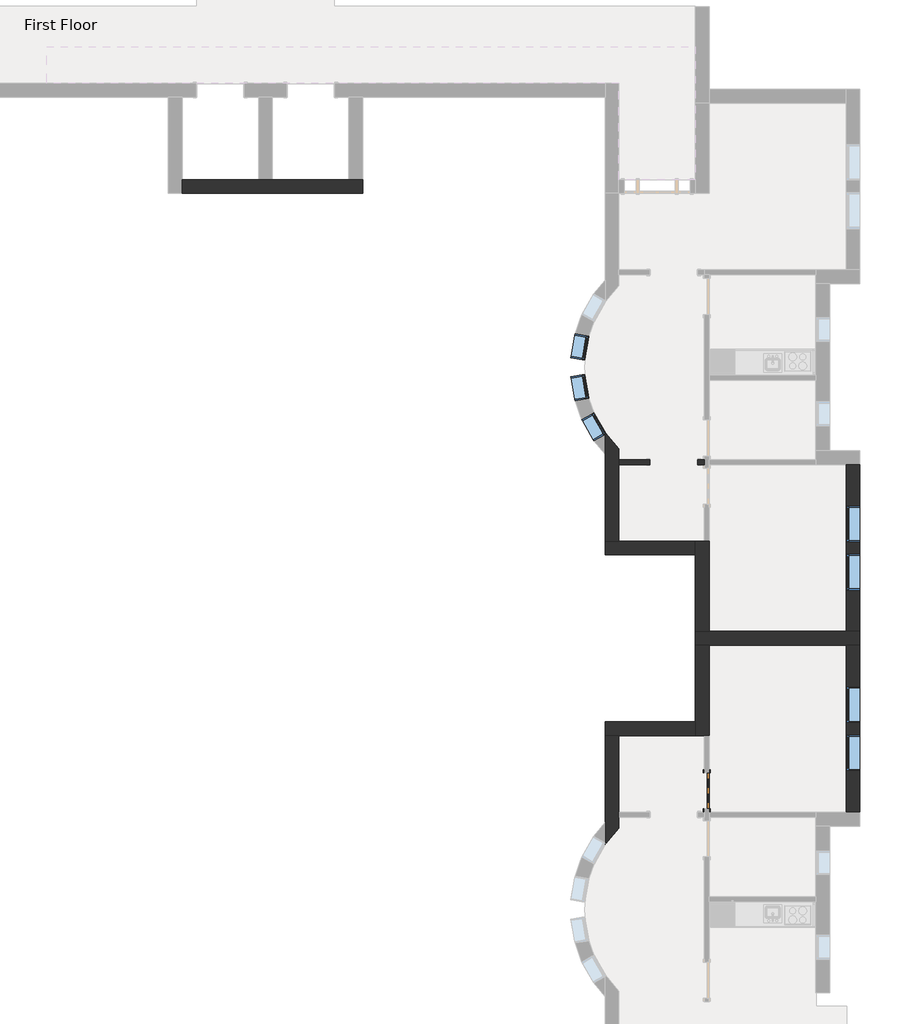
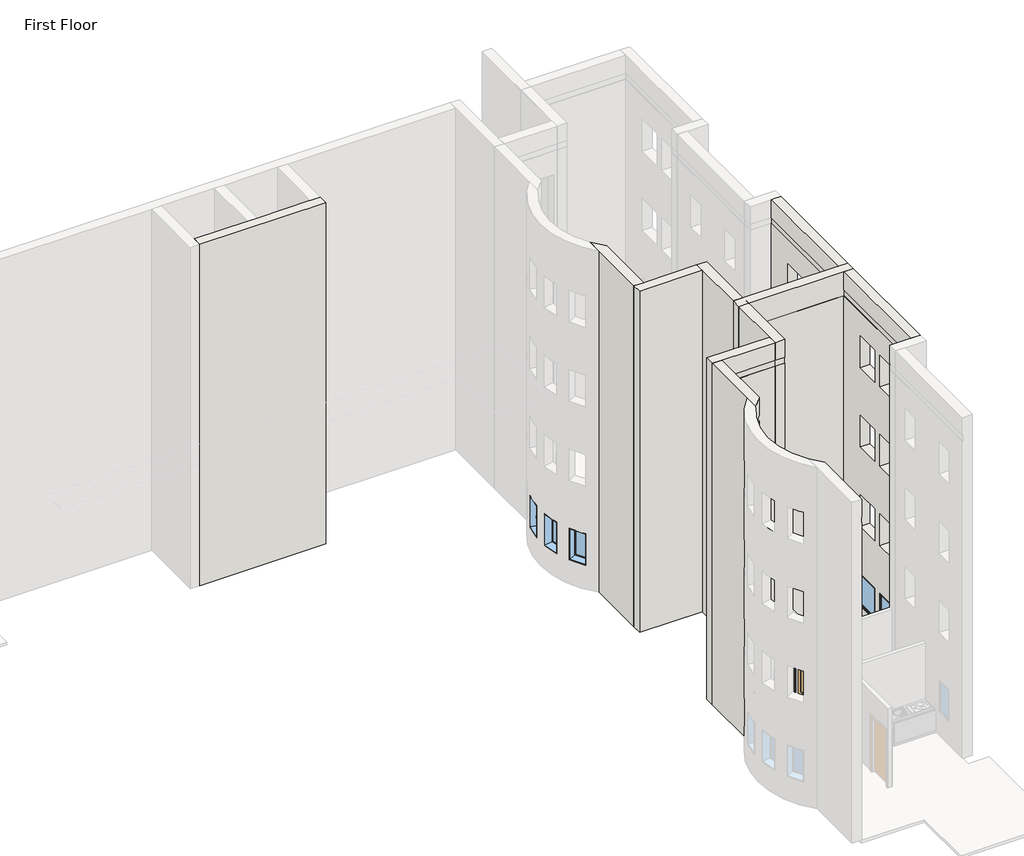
# One storey, part 11 of 23: 12 walls, 7 windows, 1 door.
"""IFC4 building model written with IfcOpenShell, lengths in millimetres."""

from ifc_helpers import new_model, si_unit, frame, origin, place, context, project, spatial, polyline, circle_curve, outline, extrude, faceted_brep, transform, mapped, element, save
from ifc_brep_helpers import plane_surface, revolved_surface, advanced_brep
from components import door_2e3b4da2, window_60baf983, window_ed80354a, window_15c49d37, window_0e2fc6ce

model = new_model("IFC4")

# Units and contexts
model_context = context("Model", 3, world=origin())
ifc_project = project(units=[si_unit("LENGTHUNIT", "METRE", prefix="MILLI")], contexts=[model_context])

# Site, building, storey
site = spatial("IfcSite", under=ifc_project)
building = spatial("IfcBuilding", under=site)
storey = spatial("IfcBuildingStorey", under=building, Name="First Floor", Elevation=0.0)

# Door
placement = place(None, origin())
door_shape = door_2e3b4da2(model_context)
element("IfcDoor", 1, ObjectType="Single-Decorative 2 : 36\" x 84\"", at=placement, inside=storey, context=model_context, shape_type="MappedRepresentation", body=[
    mapped(door_shape, transform((-3900.4589563, -15653.8558133, 0.0), x_axis=(0.0, -1.0, 0.0), y_axis=(1.0, 0.0, 0.0), z_axis=(0.0, 0.0, 1.0))),
])

# Walls
element("IfcWall", 2, ObjectType="Exterior - Brick on Mtl. Stud", at=placement, inside=storey, context=model_context, shape_type="Brep", body=[
    faceted_brep([(-17171.9589563, -550.3808133, 0.0), (-12599.9589563, -550.3808133, 0.0), (-12599.9589563, -550.3808133, 13106.4), (-17171.9589563, -550.3808133, 13106.4), (-17171.9589563, -197.9558133, 0.0), (-17171.9589563, -197.9558133, 13106.4), (-15238.3839563, -197.9558133, 13106.4), (-14885.9589563, -197.9558133, 13106.4), (-12952.3839563, -197.9558133, 13106.4), (-12599.9589563, -197.9558133, 13106.4), (-12599.9589563, -197.9558133, 0.0), (-12952.3839563, -197.9558133, 0.0), (-14885.9589563, -197.9558133, 0.0), (-15238.3839563, -197.9558133, 0.0)], [[[0, 1, 2, 3]], [[4, 5, 6, 7, 8, 9, 10, 11, 12, 13]], [[1, 0, 4, 13, 12, 11, 10]], [[3, 2, 9, 8, 7, 6, 5]], [[2, 1, 10, 9]], [[0, 3, 5, 4]]]),
])
element("IfcWall", 3, ObjectType="Exterior - Brick on Mtl. Stud", at=placement, inside=storey, context=model_context, shape_type="Brep", body=[
    faceted_brep([(-26.9589563, -11627.9558133, 0.0), (-379.3839563, -11627.9558133, 0.0), (-3836.9589563, -11627.9558133, 0.0), (-4189.3839563, -11627.9558133, 0.0), (-4189.3839563, -11627.9558133, 13106.4), (-3836.9589563, -11627.9558133, 13106.4), (-379.3839563, -11627.9558133, 13106.4), (-26.9589563, -11627.9558133, 13106.4), (-3849.6589563, -11627.9558133, 12192.0), (-3836.9589563, -11627.9558133, 12192.0), (-379.3839563, -11627.9558133, 12192.0), (-366.6839563, -11627.9558133, 12192.0), (-366.6839563, -11627.9558133, 12420.6), (-379.3839563, -11627.9558133, 12420.6), (-3836.9589563, -11627.9558133, 12420.6), (-3849.6589563, -11627.9558133, 12420.6), (-4189.3839563, -11980.3808133, 0.0), (-3836.9589563, -11980.3808133, 0.0), (-379.3839563, -11980.3808133, 0.0), (-26.9589563, -11980.3808133, 0.0), (-26.9589563, -11980.3808133, 13106.4), (-379.3839563, -11980.3808133, 13106.4), (-3836.9589563, -11980.3808133, 13106.4), (-4189.3839563, -11980.3808133, 13106.4), (-3849.6589563, -11640.6558133, 12192.0), (-366.6839563, -11640.6558133, 12192.0), (-366.6839563, -11640.6558133, 12420.6), (-3849.6589563, -11640.6558133, 12420.6)], [[[0, 1, 2, 3, 4, 5, 6, 7], [8, 9, 10, 11, 12, 13, 14, 15]], [[16, 17, 18, 19, 20, 21, 22, 23]], [[3, 2, 1, 0, 19, 18, 17, 16]], [[7, 6, 5, 4, 23, 22, 21, 20]], [[4, 3, 16, 23]], [[0, 7, 20, 19]], [[24, 25, 11, 10, 9, 8]], [[26, 27, 15, 14, 13, 12]], [[25, 24, 27, 26]], [[25, 26, 12, 11]], [[27, 24, 8, 15]]]),
])
element("IfcWall", 4, ObjectType="Exterior - Brick on Mtl. Stud", at=placement, inside=storey, context=model_context, shape_type="Brep", body=[
    faceted_brep([(-3836.9589563, -11627.9558133, 0.0), (-3836.9589563, -9341.9558133, 0.0), (-3836.9589563, -9341.9558133, 3048.0), (-3836.9589563, -9341.9558133, 6096.0), (-3836.9589563, -9341.9558133, 9144.0), (-3836.9589563, -9341.9558133, 12192.0), (-3836.9589563, -11627.9558133, 12192.0), (-3836.9589563, -9341.9558133, 13106.4), (-3836.9589563, -11627.9558133, 13106.4), (-3836.9589563, -11627.9558133, 12420.6), (-3836.9589563, -9341.9558133, 12420.6), (-4189.3839563, -9341.9558133, 0.0), (-4189.3839563, -9694.3808133, 0.0), (-4189.3839563, -11627.9558133, 0.0), (-4189.3839563, -11627.9558133, 13106.4), (-4189.3839563, -9694.3808133, 13106.4), (-4189.3839563, -9341.9558133, 13106.4), (-4189.3839563, -9341.9558133, 12420.6), (-4189.3839563, -9354.6558133, 12420.6), (-4189.3839563, -9354.6558133, 12192.0), (-4189.3839563, -9341.9558133, 12192.0), (-3963.9589563, -9341.9558133, 0.0), (-3963.9589563, -9341.9558133, 12192.0), (-3849.6589563, -11627.9558133, 12192.0), (-3849.6589563, -11627.9558133, 12420.6), (-3849.6589563, -9354.6558133, 12192.0), (-3849.6589563, -9354.6558133, 12420.6)], [[[0, 1, 2, 3, 4, 5, 6]], [[7, 8, 9, 10]], [[11, 12, 13, 14, 15, 16, 17, 18, 19, 20]], [[1, 0, 13, 12, 11, 21]], [[8, 7, 16, 15, 14]], [[1, 21, 11, 20, 22, 5, 4, 3, 2]], [[16, 7, 10, 17]], [[8, 14, 13, 0, 6, 23, 24, 9]], [[19, 25, 23, 6, 5, 22, 20]], [[24, 26, 18, 17, 10, 9]], [[26, 25, 19, 18]], [[25, 26, 24, 23]]]),
])
element("IfcWall", 5, ObjectType="Exterior - Brick on Mtl. Stud", at=placement, inside=storey, context=model_context, shape_type="Brep", body=[
    faceted_brep([(-4189.3839563, -9341.9558133, 0.0), (-6122.9589563, -9341.9558133, 0.0), (-6475.3839563, -9341.9558133, 0.0), (-6475.3839563, -9341.9558133, 13106.4), (-6122.9589563, -9341.9558133, 13106.4), (-4189.3839563, -9341.9558133, 13106.4), (-4189.3839563, -9341.9558133, 12420.6), (-6122.9589563, -9341.9558133, 12420.6), (-6135.6589563, -9341.9558133, 12420.6), (-6135.6589563, -9341.9558133, 12192.0), (-6122.9589563, -9341.9558133, 12192.0), (-4189.3839563, -9341.9558133, 12192.0), (-6475.3839563, -9694.3808133, 0.0), (-4189.3839563, -9694.3808133, 0.0), (-4189.3839563, -9694.3808133, 13106.4), (-6475.3839563, -9694.3808133, 13106.4), (-4189.3839563, -9354.6558133, 12192.0), (-4189.3839563, -9354.6558133, 12420.6), (-6135.6589563, -9354.6558133, 12192.0), (-6135.6589563, -9354.6558133, 12420.6)], [[[0, 1, 2, 3, 4, 5, 6, 7, 8, 9, 10, 11]], [[12, 13, 14, 15]], [[2, 1, 0, 13, 12]], [[5, 4, 3, 15, 14]], [[3, 2, 12, 15]], [[5, 14, 13, 0, 11, 16, 17, 6]], [[9, 18, 16, 11, 10]], [[17, 19, 8, 7, 6]], [[19, 18, 9, 8]], [[18, 19, 17, 16]]]),
])
element("IfcWall", 6, ObjectType="Exterior - Brick on Mtl. Stud", at=placement, inside=storey, context=model_context, shape_type="AdvancedBrep", body=[
    advanced_brep(
    [(-6122.9589563, -9341.9558133, 0.0), (-6122.9589563, -7408.3808133, 0.0), (-6122.9589563, -7281.3808133, 0.0), (-6122.9589563, -7006.552661, 0.0), (-6122.9589563, -7006.552661, 12192.0), (-6122.9589563, -7281.3808133, 12192.0), (-6122.9589563, -7408.3808133, 12192.0), (-6122.9589563, -9341.9558133, 12192.0), (-6122.9589563, -7006.552661, 13106.4), (-6122.9589563, -9341.9558133, 13106.4), (-6122.9589563, -9341.9558133, 12420.6), (-6122.9589563, -7006.552661, 12420.6), (-6475.3839563, -6592.6589631, 0.0), (-6475.3839563, -7150.5535473, 0.0), (-6475.3839563, -9341.9558133, 0.0), (-6475.3839563, -9341.9558133, 13106.4), (-6475.3839563, -7150.5535473, 13106.4), (-6475.3839563, -6592.6589631, 13106.4), (-6475.3839563, -6592.6589631, 12420.6), (-6475.3839563, -6901.1458841, 12420.6), (-6475.3839563, -6901.1458841, 12192.0), (-6475.3839563, -6592.6589631, 12192.0), (-6475.3839563, -6592.6589631, 11277.6), (-6475.3839563, -6641.947211, 11277.6), (-6475.3839563, -6641.947211, 10058.4), (-6475.3839563, -6592.6589631, 10058.4), (-6475.3839563, -6592.6589631, 8229.6), (-6475.3839563, -6641.947211, 8229.6), (-6475.3839563, -6641.947211, 7010.4), (-6475.3839563, -6592.6589631, 7010.4), (-6475.3839563, -6592.6589631, 5181.6), (-6475.3839563, -6641.947211, 5181.6), (-6475.3839563, -6641.947211, 3962.4), (-6475.3839563, -6592.6589631, 3962.4), (-6475.3839563, -6592.6589631, 2133.6), (-6475.3839563, -6641.947211, 2133.6), (-6475.3839563, -6641.947211, 914.4), (-6475.3839563, -6592.6589631, 914.4), (-6469.9143656, -6600.4477821, 914.4), (-6469.9143656, -6600.4477821, 2133.6), (-6469.9143656, -6600.4477821, 3962.4), (-6469.9143656, -6600.4477821, 5181.6), (-6469.9143656, -6600.4477821, 7010.4), (-6469.9143656, -6600.4477821, 8229.6), (-6469.9143656, -6600.4477821, 10058.4), (-6469.9143656, -6600.4477821, 11277.6), (-6135.6589563, -9341.9558133, 12192.0), (-6135.6589563, -9341.9558133, 12420.6), (-6453.3830671, -6629.3735215, 914.4), (-6453.3830671, -6629.3735215, 2133.6), (-6453.3830671, -6629.3735215, 10058.4), (-6453.3830671, -6629.3735215, 11277.6), (-6453.3830671, -6629.3735215, 3962.4), (-6453.3830671, -6629.3735215, 5181.6), (-6453.3830671, -6629.3735215, 7010.4), (-6453.3830671, -6629.3735215, 8229.6), (-6135.6589563, -7249.4736866, 12192.0), (-6135.6589563, -7249.4736866, 12420.6)],
    [
        (0, 1),
        (1, 2),
        (2, 3),
        (3, 4),
        (4, 5),
        (5, 6),
        (6, 7),
        (7, 0),
        (8, 9),
        (9, 10),
        (10, 11),
        (11, 8),
        (12, 13),
        (13, 14),
        (14, 15),
        (15, 16),
        (16, 17),
        (17, 18),
        (18, 19),
        (19, 20),
        (20, 21),
        (21, 22),
        (22, 23),
        (23, 24),
        (24, 25),
        (25, 26),
        (26, 27),
        (27, 28),
        (28, 29),
        (29, 30),
        (30, 31),
        (31, 32),
        (32, 33),
        (33, 34),
        (34, 35),
        (35, 36),
        (36, 37),
        (37, 12),
        (0, 14),
        (12, 3, circle_curve(frame((-4122.4640713, -4946.1683133, 0.0), z_axis=(0.0, 0.0, 1.0), x_axis=(0.0, 1.0, 0.0)), 2871.7875)),
        (8, 17, circle_curve(frame((-4122.4640713, -4946.1683133, 13106.4), z_axis=(0.0, 0.0, -1.0), x_axis=(0.0, 1.0, 0.0)), 2871.7875)),
        (15, 9),
        (37, 38, circle_curve(frame((-4122.4640713, -4946.1683133, 914.4), z_axis=(0.0, 0.0, 1.0), x_axis=(0.0, 1.0, 0.0)), 2871.7875)),
        (38, 39),
        (39, 34, circle_curve(frame((-4122.4640713, -4946.1683133, 2133.6), z_axis=(0.0, 0.0, -1.0), x_axis=(0.0, 1.0, 0.0)), 2871.7875)),
        (33, 40, circle_curve(frame((-4122.4640713, -4946.1683133, 3962.4), z_axis=(0.0, 0.0, 1.0), x_axis=(0.0, 1.0, 0.0)), 2871.7875)),
        (40, 41),
        (41, 30, circle_curve(frame((-4122.4640713, -4946.1683133, 5181.6), z_axis=(0.0, 0.0, -1.0), x_axis=(0.0, 1.0, 0.0)), 2871.7875)),
        (29, 42, circle_curve(frame((-4122.4640713, -4946.1683133, 7010.4), z_axis=(0.0, 0.0, 1.0), x_axis=(0.0, 1.0, 0.0)), 2871.7875)),
        (42, 43),
        (43, 26, circle_curve(frame((-4122.4640713, -4946.1683133, 8229.6), z_axis=(0.0, 0.0, -1.0), x_axis=(0.0, 1.0, 0.0)), 2871.7875)),
        (25, 44, circle_curve(frame((-4122.4640713, -4946.1683133, 10058.4), z_axis=(0.0, 0.0, 1.0), x_axis=(0.0, 1.0, 0.0)), 2871.7875)),
        (44, 45),
        (45, 22, circle_curve(frame((-4122.4640713, -4946.1683133, 11277.6), z_axis=(0.0, 0.0, -1.0), x_axis=(0.0, 1.0, 0.0)), 2871.7875)),
        (21, 4, circle_curve(frame((-4122.4640713, -4946.1683133, 12192.0), z_axis=(0.0, 0.0, 1.0), x_axis=(0.0, 1.0, 0.0)), 2871.7875)),
        (11, 18, circle_curve(frame((-4122.4640713, -4946.1683133, 12420.6), z_axis=(0.0, 0.0, -1.0), x_axis=(0.0, 1.0, 0.0)), 2871.7875)),
        (7, 46),
        (46, 47),
        (47, 10),
        (48, 49),
        (49, 39),
        (38, 48),
        (36, 48),
        (35, 49),
        (50, 51),
        (51, 45),
        (44, 50),
        (24, 50),
        (23, 51),
        (52, 53),
        (53, 41),
        (40, 52),
        (32, 52),
        (31, 53),
        (54, 55),
        (55, 43),
        (42, 54),
        (28, 54),
        (27, 55),
        (20, 56, circle_curve(frame((-4122.4640713, -4946.1683133, 12192.0), z_axis=(0.0, 0.0, 1.0), x_axis=(0.0, -1.0, 0.0)), 3059.1125)),
        (56, 46),
        (47, 57),
        (57, 19, circle_curve(frame((-4122.4640713, -4946.1683133, 12420.6), z_axis=(0.0, 0.0, -1.0), x_axis=(0.0, -1.0, 0.0)), 3059.1125)),
        (57, 56),
    ],
    [
        plane_surface(frame((-6122.9589563, -9518.1683133, 0.0), z_axis=(1.0, 0.0, 0.0), x_axis=(0.0, 1.0, 0.0))),
        plane_surface(frame((-6475.3839563, -9518.1683133, 0.0), z_axis=(-1.0, 0.0, 0.0), x_axis=(0.0, -1.0, 0.0))),
        plane_surface(frame((-6122.9589563, -9518.1683133, 0.0), z_axis=(0.0, 0.0, -1.0), x_axis=(-1.0, 0.0, 0.0))),
        plane_surface(frame((-6122.9589563, -7079.7683133, 13106.4), z_axis=(0.0, 0.0, 1.0), x_axis=(-1.0, 0.0, 0.0))),
        revolved_surface(polyline([(-4122.4640713, -2074.3808132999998, 0.0), (-4122.4640713, -2074.3808132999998, 12192.0)]), (-4122.4640713, -4946.1683133, 0.0), (0.0, 0.0, -1.0)),
        revolved_surface(polyline([(-4122.4640713, -2074.3808132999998, 12420.6), (-4122.4640713, -2074.3808132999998, 13106.4)]), (-4122.4640713, -4946.1683133, 0.0), (0.0, 0.0, -1.0)),
        plane_surface(frame((-4013.1714563, -9341.9558133, 0.0), z_axis=(0.0, -1.0, 0.0), x_axis=(-1.0, 0.0, 0.0))),
        plane_surface(frame((-6755.8611513, -6100.1106675, 2133.6), z_axis=(-0.8682133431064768, -0.4961910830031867, 0.0), x_axis=(0.0, 0.0, 1.0))),
        plane_surface(frame((-7060.4709271, -6274.1976656, 914.4), z_axis=(0.0, 0.0, 1.0), x_axis=(0.8682133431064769, 0.4961910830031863, 0.0))),
        plane_surface(frame((-6757.9928429, -6803.4605195, 914.4), z_axis=(-0.4961910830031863, 0.8682133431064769, 0.0), x_axis=(0.8682133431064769, 0.4961910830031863, 0.0))),
        plane_surface(frame((-6757.9928429, -6803.4605195, 2133.6), z_axis=(0.0, 0.0, -1.0), x_axis=(0.8682133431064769, 0.4961910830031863, 0.0))),
        plane_surface(frame((-6755.8611513, -6100.1106675, 11277.6), z_axis=(-0.8682133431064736, -0.4961910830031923, 0.0), x_axis=(0.0, 0.0, 1.0))),
        plane_surface(frame((-7060.4709271, -6274.1976656, 10058.4), z_axis=(0.0, 0.0, 1.0), x_axis=(0.8682133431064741, 0.49619108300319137, 0.0))),
        plane_surface(frame((-6757.9928429, -6803.4605195, 10058.4), z_axis=(-0.49619108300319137, 0.8682133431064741, 0.0), x_axis=(0.8682133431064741, 0.49619108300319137, 0.0))),
        plane_surface(frame((-6757.9928429, -6803.4605195, 11277.6), z_axis=(0.0, 0.0, -1.0), x_axis=(0.8682133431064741, 0.49619108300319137, 0.0))),
        plane_surface(frame((-6755.8611513, -6100.1106675, 5181.6), z_axis=(-0.8682133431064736, -0.4961910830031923, 0.0), x_axis=(0.0, 0.0, 1.0))),
        plane_surface(frame((-7060.4709271, -6274.1976656, 3962.4), z_axis=(0.0, 0.0, 1.0), x_axis=(0.8682133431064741, 0.49619108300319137, 0.0))),
        plane_surface(frame((-6757.9928429, -6803.4605195, 3962.4), z_axis=(-0.49619108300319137, 0.8682133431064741, 0.0), x_axis=(0.8682133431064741, 0.49619108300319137, 0.0))),
        plane_surface(frame((-6757.9928429, -6803.4605195, 5181.6), z_axis=(0.0, 0.0, -1.0), x_axis=(0.8682133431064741, 0.49619108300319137, 0.0))),
        plane_surface(frame((-6755.8611513, -6100.1106675, 8229.6), z_axis=(-0.8682133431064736, -0.4961910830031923, 0.0), x_axis=(0.0, 0.0, 1.0))),
        plane_surface(frame((-7060.4709271, -6274.1976656, 7010.4), z_axis=(0.0, 0.0, 1.0), x_axis=(0.8682133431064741, 0.49619108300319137, 0.0))),
        plane_surface(frame((-6757.9928429, -6803.4605195, 7010.4), z_axis=(-0.49619108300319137, 0.8682133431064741, 0.0), x_axis=(0.8682133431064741, 0.49619108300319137, 0.0))),
        plane_surface(frame((-6757.9928429, -6803.4605195, 8229.6), z_axis=(0.0, 0.0, -1.0), x_axis=(0.8682133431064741, 0.49619108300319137, 0.0))),
        plane_surface(frame((-366.6839563, -11640.6558133, 12192.0), z_axis=(0.0, 0.0, 1.0), x_axis=(1.0, 0.0, 0.0))),
        plane_surface(frame((-366.6839563, -11640.6558133, 12420.6), z_axis=(0.0, 0.0, -1.0), x_axis=(1.0, 0.0, 0.0))),
        revolved_surface(polyline([(-4122.4640713, -8005.2808133, 12420.6), (-4122.4640713, -8005.2808133, 12192.0)]), (-4122.4640713, -4946.1683133, 12192.0), (0.0, 0.0, 1.0)),
        plane_surface(frame((-6135.6589563, -7249.4736866, 12192.0), z_axis=(1.0, 0.0, 0.0), x_axis=(0.0, -1.0, 0.0))),
    ],
    [
        (0, [[1, 2, 3, 4, 5, 6, 7, 8]]),
        (0, [[9, 10, 11, 12]]),
        (1, [[13, 14, 15, 16, 17, 18, 19, 20, 21, 22, 23, 24, 25, 26, 27, 28, 29, 30, 31, 32, 33, 34, 35, 36, 37, 38]]),
        (2, [[-3, -2, -1, 39, -14, -13, 40]]),
        (3, [[-9, 41, -17, -16, 42]]),
        (4, [[-40, -38, 43, 44, 45, -34, 46, 47, 48, -30, 49, 50, 51, -26, 52, 53, 54, -22, 55, -4]]),
        (5, [[-41, -12, 56, -18]]),
        (6, [[-42, -15, -39, -8, 57, 58, 59, -10]]),
        (7, [[60, 61, -44, 62]]),
        (8, [[63, -62, -43, -37]]),
        (9, [[-60, -63, -36, 64]]),
        (10, [[-64, -35, -45, -61]]),
        (11, [[65, 66, -53, 67]]),
        (12, [[68, -67, -52, -25]]),
        (13, [[-65, -68, -24, 69]]),
        (14, [[-69, -23, -54, -66]]),
        (15, [[70, 71, -47, 72]]),
        (16, [[73, -72, -46, -33]]),
        (17, [[-70, -73, -32, 74]]),
        (18, [[-74, -31, -48, -71]]),
        (19, [[75, 76, -50, 77]]),
        (20, [[78, -77, -49, -29]]),
        (21, [[-75, -78, -28, 79]]),
        (22, [[-79, -27, -51, -76]]),
        (23, [[80, 81, -57, -7, -6, -5, -55, -21]]),
        (24, [[82, 83, -19, -56, -11, -59]]),
        (25, [[84, -80, -20, -83]]),
        (26, [[-84, -82, -58, -81]]),
    ],
),
])
element("IfcWall", 7, ObjectType="Exterior - Brick on Mtl. Stud", at=placement, inside=storey, context=model_context, shape_type="Brep", body=[
    faceted_brep([(-26.9589563, -11627.9558133, 0.0), (-26.9589563, -7408.3808133, 0.0), (-26.9589563, -7408.3808133, 13106.4), (-26.9589563, -11627.9558133, 13106.4), (-26.9589563, -9365.7683133, 7010.4), (-26.9589563, -9365.7683133, 8229.6), (-26.9589563, -8451.3683133, 8229.6), (-26.9589563, -8451.3683133, 7010.4), (-26.9589563, -10584.9683133, 7010.4), (-26.9589563, -10584.9683133, 8229.6), (-26.9589563, -9670.5683133, 8229.6), (-26.9589563, -9670.5683133, 7010.4), (-26.9589563, -9365.7683133, 3962.4), (-26.9589563, -9365.7683133, 5181.6), (-26.9589563, -8451.3683133, 5181.6), (-26.9589563, -8451.3683133, 3962.4), (-26.9589563, -10584.9683133, 3962.4), (-26.9589563, -10584.9683133, 5181.6), (-26.9589563, -9670.5683133, 5181.6), (-26.9589563, -9670.5683133, 3962.4), (-26.9589563, -9365.7683133, 10058.4), (-26.9589563, -9365.7683133, 11277.6), (-26.9589563, -8451.3683133, 11277.6), (-26.9589563, -8451.3683133, 10058.4), (-26.9589563, -10584.9683133, 10058.4), (-26.9589563, -10584.9683133, 11277.6), (-26.9589563, -9670.5683133, 11277.6), (-26.9589563, -9670.5683133, 10058.4), (-26.9589563, -9365.7683133, 914.4), (-26.9589563, -9365.7683133, 2133.6), (-26.9589563, -8451.3683133, 2133.6), (-26.9589563, -8451.3683133, 914.4), (-26.9589563, -10584.9683133, 914.4), (-26.9589563, -10584.9683133, 2133.6), (-26.9589563, -9670.5683133, 2133.6), (-26.9589563, -9670.5683133, 914.4), (-379.3839563, -7408.3808133, 0.0), (-379.3839563, -11627.9558133, 0.0), (-379.3839563, -11627.9558133, 12192.0), (-379.3839563, -7408.3808133, 12192.0), (-379.3839563, -9365.7683133, 8229.6), (-379.3839563, -9365.7683133, 7010.4), (-379.3839563, -8451.3683133, 7010.4), (-379.3839563, -8451.3683133, 8229.6), (-379.3839563, -10584.9683133, 8229.6), (-379.3839563, -10584.9683133, 7010.4), (-379.3839563, -9670.5683133, 7010.4), (-379.3839563, -9670.5683133, 8229.6), (-379.3839563, -9365.7683133, 5181.6), (-379.3839563, -9365.7683133, 3962.4), (-379.3839563, -8451.3683133, 3962.4), (-379.3839563, -8451.3683133, 5181.6), (-379.3839563, -10584.9683133, 5181.6), (-379.3839563, -10584.9683133, 3962.4), (-379.3839563, -9670.5683133, 3962.4), (-379.3839563, -9670.5683133, 5181.6), (-379.3839563, -9365.7683133, 11277.6), (-379.3839563, -9365.7683133, 10058.4), (-379.3839563, -8451.3683133, 10058.4), (-379.3839563, -8451.3683133, 11277.6), (-379.3839563, -10584.9683133, 11277.6), (-379.3839563, -10584.9683133, 10058.4), (-379.3839563, -9670.5683133, 10058.4), (-379.3839563, -9670.5683133, 11277.6), (-379.3839563, -9365.7683133, 2133.6), (-379.3839563, -9365.7683133, 914.4), (-379.3839563, -8451.3683133, 914.4), (-379.3839563, -8451.3683133, 2133.6), (-379.3839563, -10584.9683133, 2133.6), (-379.3839563, -10584.9683133, 914.4), (-379.3839563, -9670.5683133, 914.4), (-379.3839563, -9670.5683133, 2133.6), (-379.3839563, -11627.9558133, 13106.4), (-379.3839563, -7408.3808133, 13106.4), (-379.3839563, -7408.3808133, 12420.6), (-379.3839563, -11627.9558133, 12420.6), (-366.6839563, -11627.9558133, 12420.6), (-366.6839563, -11627.9558133, 12192.0), (-366.6839563, -7408.3808133, 12192.0), (-366.6839563, -7408.3808133, 12420.6)], [[[0, 1, 2, 3], [4, 5, 6, 7], [8, 9, 10, 11], [12, 13, 14, 15], [16, 17, 18, 19], [20, 21, 22, 23], [24, 25, 26, 27], [28, 29, 30, 31], [32, 33, 34, 35]], [[36, 37, 38, 39], [40, 41, 42, 43], [44, 45, 46, 47], [48, 49, 50, 51], [52, 53, 54, 55], [56, 57, 58, 59], [60, 61, 62, 63], [64, 65, 66, 67], [68, 69, 70, 71]], [[72, 73, 74, 75]], [[1, 0, 37, 36]], [[3, 2, 73, 72]], [[0, 3, 72, 75, 76, 77, 38, 37]], [[2, 1, 36, 39, 78, 79, 74, 73]], [[41, 40, 5, 4]], [[42, 41, 4, 7]], [[43, 42, 7, 6]], [[40, 43, 6, 5]], [[45, 44, 9, 8]], [[46, 45, 8, 11]], [[47, 46, 11, 10]], [[44, 47, 10, 9]], [[49, 48, 13, 12]], [[50, 49, 12, 15]], [[51, 50, 15, 14]], [[48, 51, 14, 13]], [[53, 52, 17, 16]], [[54, 53, 16, 19]], [[55, 54, 19, 18]], [[52, 55, 18, 17]], [[57, 56, 21, 20]], [[58, 57, 20, 23]], [[59, 58, 23, 22]], [[56, 59, 22, 21]], [[61, 60, 25, 24]], [[62, 61, 24, 27]], [[63, 62, 27, 26]], [[60, 63, 26, 25]], [[65, 64, 29, 28]], [[66, 65, 28, 31]], [[67, 66, 31, 30]], [[64, 67, 30, 29]], [[69, 68, 33, 32]], [[70, 69, 32, 35]], [[71, 70, 35, 34]], [[68, 71, 34, 33]], [[77, 78, 39, 38]], [[79, 76, 75, 74]], [[78, 77, 76, 79]]]),
])
element("IfcWall", 8, ObjectType="Exterior - Brick on Mtl. Stud", at=placement, inside=storey, context=model_context, shape_type="SweptSolid", body=[
    extrude(outline(polyline([(-11627.9558133, 13106.4), (-11627.9558133, 0.0), (-11980.3808133, 0.0), (-11980.3808133, 12192.0), (-11967.6808133, 12192.0), (-11967.6808133, 12420.6), (-11980.3808133, 12420.6), (-11980.3808133, 13106.4), (-11627.9558133, 13106.4)])), frame((-3836.9589563, 0.0, 0.0), z_axis=(1.0, 0.0, 0.0), x_axis=(0.0, 1.0, 0.0)), (0.0, 0.0, 1.0), 3457.575),
])
element("IfcWall", 9, ObjectType="Exterior - Brick on Mtl. Stud", at=placement, inside=storey, context=model_context, shape_type="Brep", body=[
    faceted_brep([(-4189.3839563, -11980.3808133, 0.0), (-4189.3839563, -13913.9558133, 0.0), (-4189.3839563, -14266.3808133, 0.0), (-4189.3839563, -14266.3808133, 12192.0), (-4189.3839563, -14253.6808133, 12192.0), (-4189.3839563, -14253.6808133, 12420.6), (-4189.3839563, -14266.3808133, 12420.6), (-4189.3839563, -14266.3808133, 13106.4), (-4189.3839563, -13913.9558133, 13106.4), (-4189.3839563, -11980.3808133, 13106.4), (-3836.9589563, -14266.3808133, 0.0), (-3836.9589563, -11980.3808133, 0.0), (-3836.9589563, -11980.3808133, 12192.0), (-3836.9589563, -14266.3808133, 12192.0), (-3836.9589563, -14266.3808133, 9144.0), (-3836.9589563, -14266.3808133, 6096.0), (-3836.9589563, -14266.3808133, 3048.0), (-3836.9589563, -11980.3808133, 13106.4), (-3836.9589563, -14266.3808133, 13106.4), (-3836.9589563, -14266.3808133, 12420.6), (-3836.9589563, -11980.3808133, 12420.6), (-3963.9589563, -14266.3808133, 0.0), (-3963.9589563, -14266.3808133, 12192.0), (-3849.6589563, -11980.3808133, 12420.6), (-3849.6589563, -11980.3808133, 12192.0), (-3849.6589563, -14253.6808133, 12192.0), (-3849.6589563, -14253.6808133, 12420.6)], [[[0, 1, 2, 3, 4, 5, 6, 7, 8, 9]], [[10, 11, 12, 13, 14, 15, 16]], [[17, 18, 19, 20]], [[2, 1, 0, 11, 10, 21]], [[9, 8, 7, 18, 17]], [[2, 21, 10, 16, 15, 14, 13, 22, 3]], [[18, 7, 6, 19]], [[0, 9, 17, 20, 23, 24, 12, 11]], [[24, 25, 4, 3, 22, 13, 12]], [[5, 26, 23, 20, 19, 6]], [[25, 26, 5, 4]], [[26, 25, 24, 23]]]),
])
element("IfcWall", 10, ObjectType="Exterior - Brick on Mtl. Stud", at=placement, inside=storey, context=model_context, shape_type="Brep", body=[
    faceted_brep([(-4189.3839563, -13913.9558133, 0.0), (-6475.3839563, -13913.9558133, 0.0), (-6475.3839563, -13913.9558133, 13106.4), (-4189.3839563, -13913.9558133, 13106.4), (-6475.3839563, -14266.3808133, 0.0), (-6122.9589563, -14266.3808133, 0.0), (-4189.3839563, -14266.3808133, 0.0), (-4189.3839563, -14266.3808133, 12192.0), (-6122.9589563, -14266.3808133, 12192.0), (-6135.6589563, -14266.3808133, 12192.0), (-6135.6589563, -14266.3808133, 12420.6), (-6122.9589563, -14266.3808133, 12420.6), (-4189.3839563, -14266.3808133, 12420.6), (-4189.3839563, -14266.3808133, 13106.4), (-6122.9589563, -14266.3808133, 13106.4), (-6475.3839563, -14266.3808133, 13106.4), (-4189.3839563, -14253.6808133, 12420.6), (-4189.3839563, -14253.6808133, 12192.0), (-6135.6589563, -14253.6808133, 12192.0), (-6135.6589563, -14253.6808133, 12420.6)], [[[0, 1, 2, 3]], [[4, 5, 6, 7, 8, 9, 10, 11, 12, 13, 14, 15]], [[1, 0, 6, 5, 4]], [[3, 2, 15, 14, 13]], [[2, 1, 4, 15]], [[0, 3, 13, 12, 16, 17, 7, 6]], [[17, 18, 9, 8, 7]], [[10, 19, 16, 12, 11]], [[18, 19, 10, 9]], [[19, 18, 17, 16]]]),
])
element("IfcWall", 11, ObjectType="Exterior - Brick on Mtl. Stud", at=placement, inside=storey, context=model_context, shape_type="AdvancedBrep", body=[
    advanced_brep(
    [(-6475.3839563, -14266.3808133, 0.0), (-6475.3839563, -16457.7830793, 0.0), (-6475.3839563, -17015.6776635, 0.0), (-6475.3839563, -17015.6776635, 914.4), (-6475.3839563, -16966.3894156, 914.4), (-6475.3839563, -16966.3894156, 2133.6), (-6475.3839563, -17015.6776635, 2133.6), (-6475.3839563, -17015.6776635, 3962.4), (-6475.3839563, -16966.3894156, 3962.4), (-6475.3839563, -16966.3894156, 5181.6), (-6475.3839563, -17015.6776635, 5181.6), (-6475.3839563, -17015.6776635, 7010.4), (-6475.3839563, -16966.3894156, 7010.4), (-6475.3839563, -16966.3894156, 8229.6), (-6475.3839563, -17015.6776635, 8229.6), (-6475.3839563, -17015.6776635, 10058.4), (-6475.3839563, -16966.3894156, 10058.4), (-6475.3839563, -16966.3894156, 11277.6), (-6475.3839563, -17015.6776635, 11277.6), (-6475.3839563, -17015.6776635, 12192.0), (-6475.3839563, -16707.1907425, 12192.0), (-6475.3839563, -16707.1907425, 12420.6), (-6475.3839563, -17015.6776635, 12420.6), (-6475.3839563, -17015.6776635, 13106.4), (-6475.3839563, -16457.7830793, 13106.4), (-6475.3839563, -14266.3808133, 13106.4), (-6122.9589563, -16601.7839656, 0.0), (-6122.9589563, -16326.9558133, 0.0), (-6122.9589563, -16199.9558133, 0.0), (-6122.9589563, -14266.3808133, 0.0), (-6122.9589563, -14266.3808133, 12192.0), (-6122.9589563, -16199.9558133, 12192.0), (-6122.9589563, -16326.9558133, 12192.0), (-6122.9589563, -16601.7839656, 12192.0), (-6122.9589563, -14266.3808133, 13106.4), (-6122.9589563, -16601.7839656, 13106.4), (-6122.9589563, -16601.7839656, 12420.6), (-6122.9589563, -14266.3808133, 12420.6), (-6469.8279046, -17007.7661617, 11277.6), (-6469.8279046, -17007.7661617, 10058.4), (-6469.8279046, -17007.7661617, 8229.6), (-6469.8279046, -17007.7661617, 7010.4), (-6469.8279046, -17007.7661617, 5181.6), (-6469.8279046, -17007.7661617, 3962.4), (-6469.8279046, -17007.7661617, 2133.6), (-6469.8279046, -17007.7661617, 914.4), (-6135.6589563, -14266.3808133, 12420.6), (-6135.6589563, -14266.3808133, 12192.0), (-6453.370745, -16978.9701473, 2133.6), (-6453.370745, -16978.9701473, 914.4), (-6453.370745, -16978.9701473, 11277.6), (-6453.370745, -16978.9701473, 10058.4), (-6453.370745, -16978.9701473, 5181.6), (-6453.370745, -16978.9701473, 3962.4), (-6453.370745, -16978.9701473, 8229.6), (-6453.370745, -16978.9701473, 7010.4), (-6135.6589563, -16358.86294, 12192.0), (-6135.6589563, -16358.86294, 12420.6)],
    [
        (0, 1),
        (1, 2),
        (2, 3),
        (3, 4),
        (4, 5),
        (5, 6),
        (6, 7),
        (7, 8),
        (8, 9),
        (9, 10),
        (10, 11),
        (11, 12),
        (12, 13),
        (13, 14),
        (14, 15),
        (15, 16),
        (16, 17),
        (17, 18),
        (18, 19),
        (19, 20),
        (20, 21),
        (21, 22),
        (22, 23),
        (23, 24),
        (24, 25),
        (25, 0),
        (26, 27),
        (27, 28),
        (28, 29),
        (29, 30),
        (30, 31),
        (31, 32),
        (32, 33),
        (33, 26),
        (34, 35),
        (35, 36),
        (36, 37),
        (37, 34),
        (0, 29),
        (26, 2, circle_curve(frame((-4122.4640713, -18662.1683133, 0.0), z_axis=(0.0, 0.0, 1.0), x_axis=(0.0, -1.0, 0.0)), 2871.7875)),
        (23, 35, circle_curve(frame((-4122.4640713, -18662.1683133, 13106.4), z_axis=(0.0, 0.0, -1.0), x_axis=(0.0, -1.0, 0.0)), 2871.7875)),
        (34, 25),
        (33, 19, circle_curve(frame((-4122.4640713, -18662.1683133, 12192.0), z_axis=(0.0, 0.0, 1.0), x_axis=(0.0, -1.0, 0.0)), 2871.7875)),
        (18, 38, circle_curve(frame((-4122.4640713, -18662.1683133, 11277.6), z_axis=(0.0, 0.0, -1.0), x_axis=(0.0, -1.0, 0.0)), 2871.7875)),
        (38, 39),
        (39, 15, circle_curve(frame((-4122.4640713, -18662.1683133, 10058.4), z_axis=(0.0, 0.0, 1.0), x_axis=(0.0, -1.0, 0.0)), 2871.7875)),
        (14, 40, circle_curve(frame((-4122.4640713, -18662.1683133, 8229.6), z_axis=(0.0, 0.0, -1.0), x_axis=(0.0, -1.0, 0.0)), 2871.7875)),
        (40, 41),
        (41, 11, circle_curve(frame((-4122.4640713, -18662.1683133, 7010.4), z_axis=(0.0, 0.0, 1.0), x_axis=(0.0, -1.0, 0.0)), 2871.7875)),
        (10, 42, circle_curve(frame((-4122.4640713, -18662.1683133, 5181.6), z_axis=(0.0, 0.0, -1.0), x_axis=(0.0, -1.0, 0.0)), 2871.7875)),
        (42, 43),
        (43, 7, circle_curve(frame((-4122.4640713, -18662.1683133, 3962.4), z_axis=(0.0, 0.0, 1.0), x_axis=(0.0, -1.0, 0.0)), 2871.7875)),
        (6, 44, circle_curve(frame((-4122.4640713, -18662.1683133, 2133.6), z_axis=(0.0, 0.0, -1.0), x_axis=(0.0, -1.0, 0.0)), 2871.7875)),
        (44, 45),
        (45, 3, circle_curve(frame((-4122.4640713, -18662.1683133, 914.4), z_axis=(0.0, 0.0, 1.0), x_axis=(0.0, -1.0, 0.0)), 2871.7875)),
        (22, 36, circle_curve(frame((-4122.4640713, -18662.1683133, 12420.6), z_axis=(0.0, 0.0, -1.0), x_axis=(0.0, -1.0, 0.0)), 2871.7875)),
        (37, 46),
        (46, 47),
        (47, 30),
        (48, 49),
        (49, 45),
        (44, 48),
        (49, 4),
        (48, 5),
        (50, 51),
        (51, 39),
        (38, 50),
        (51, 16),
        (50, 17),
        (52, 53),
        (53, 43),
        (42, 52),
        (53, 8),
        (52, 9),
        (54, 55),
        (55, 41),
        (40, 54),
        (55, 12),
        (54, 13),
        (47, 56),
        (56, 20, circle_curve(frame((-4122.4640713, -18662.1683133, 12192.0), z_axis=(0.0, 0.0, 1.0), x_axis=(0.0, -1.0, 0.0)), 3059.1125)),
        (21, 57, circle_curve(frame((-4122.4640713, -18662.1683133, 12420.6), z_axis=(0.0, 0.0, -1.0), x_axis=(0.0, -1.0, 0.0)), 3059.1125)),
        (57, 46),
        (56, 57),
    ],
    [
        plane_surface(frame((-6475.3839563, -14090.1683133, 0.0), z_axis=(-1.0, 0.0, 0.0), x_axis=(0.0, -1.0, 0.0))),
        plane_surface(frame((-6122.9589563, -14090.1683133, 0.0), z_axis=(1.0, 0.0, 0.0), x_axis=(0.0, 1.0, 0.0))),
        plane_surface(frame((-6475.3839563, -14090.1683133, 0.0), z_axis=(0.0, 0.0, -1.0), x_axis=(1.0, 0.0, 0.0))),
        plane_surface(frame((-6475.3839563, -16528.5683133, 13106.4), z_axis=(0.0, 0.0, 1.0), x_axis=(1.0, 0.0, 0.0))),
        revolved_surface(polyline([(-4122.4640713, -21533.9558133, 0.0), (-4122.4640713, -21533.9558133, 12192.0)]), (-4122.4640713, -18662.1683133, 0.0), (0.0, 0.0, -1.0)),
        revolved_surface(polyline([(-4122.4640713, -21533.9558133, 12420.6), (-4122.4640713, -21533.9558133, 13106.4)]), (-4122.4640713, -18662.1683133, 0.0), (0.0, 0.0, -1.0)),
        plane_surface(frame((-4013.1714563, -14266.3808133, 0.0), z_axis=(0.0, 1.0, 0.0), x_axis=(1.0, 0.0, 0.0))),
        plane_surface(frame((-6755.8488292, -17508.2330013, 2133.6), z_axis=(-0.8682133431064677, 0.49619108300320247, 0.0), x_axis=(0.0, 0.0, -1.0))),
        plane_surface(frame((-6755.8488292, -17508.2330013, 914.4), z_axis=(0.0, 0.0, 1.0000000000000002), x_axis=(-0.8682133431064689, 0.4961910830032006, 0.0))),
        plane_surface(frame((-6453.370745, -16978.9701473, 914.4), z_axis=(-0.4961910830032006, -0.8682133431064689, 0.0), x_axis=(-0.8682133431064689, 0.4961910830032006, 0.0))),
        plane_surface(frame((-6453.370745, -16978.9701473, 2133.6), z_axis=(0.0, 0.0, -1.0000000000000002), x_axis=(-0.8682133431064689, 0.4961910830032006, 0.0))),
        plane_surface(frame((-6755.8488292, -17508.2330013, 11277.6), z_axis=(-0.8682133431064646, 0.49619108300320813, 0.0), x_axis=(0.0, 0.0, -1.0))),
        plane_surface(frame((-6755.8488292, -17508.2330013, 10058.4), z_axis=(0.0, 0.0, 1.0), x_axis=(-0.8682133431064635, 0.49619108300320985, 0.0))),
        plane_surface(frame((-6453.370745, -16978.9701473, 10058.4), z_axis=(-0.4961910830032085, -0.8682133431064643, 0.0), x_axis=(-0.8682133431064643, 0.4961910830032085, 0.0))),
        plane_surface(frame((-6453.370745, -16978.9701473, 11277.6), z_axis=(0.0, 0.0, -1.0), x_axis=(-0.8682133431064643, 0.4961910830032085, 0.0))),
        plane_surface(frame((-6755.8488292, -17508.2330013, 5181.6), z_axis=(-0.8682133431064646, 0.49619108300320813, 0.0), x_axis=(0.0, 0.0, -1.0))),
        plane_surface(frame((-6755.8488292, -17508.2330013, 3962.4), z_axis=(0.0, 0.0, 1.0), x_axis=(-0.8682133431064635, 0.49619108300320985, 0.0))),
        plane_surface(frame((-6453.370745, -16978.9701473, 3962.4), z_axis=(-0.4961910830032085, -0.8682133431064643, 0.0), x_axis=(-0.8682133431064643, 0.4961910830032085, 0.0))),
        plane_surface(frame((-6453.370745, -16978.9701473, 5181.6), z_axis=(0.0, 0.0, -1.0), x_axis=(-0.8682133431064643, 0.4961910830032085, 0.0))),
        plane_surface(frame((-6755.8488292, -17508.2330013, 8229.6), z_axis=(-0.8682133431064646, 0.49619108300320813, 0.0), x_axis=(0.0, 0.0, -1.0))),
        plane_surface(frame((-6755.8488292, -17508.2330013, 7010.4), z_axis=(0.0, 0.0, 1.0), x_axis=(-0.8682133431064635, 0.49619108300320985, 0.0))),
        plane_surface(frame((-6453.370745, -16978.9701473, 7010.4), z_axis=(-0.4961910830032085, -0.8682133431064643, 0.0), x_axis=(-0.8682133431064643, 0.4961910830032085, 0.0))),
        plane_surface(frame((-6453.370745, -16978.9701473, 8229.6), z_axis=(0.0, 0.0, -1.0), x_axis=(-0.8682133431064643, 0.4961910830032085, 0.0))),
        plane_surface(frame((-366.6839563, -11967.6808133, 12192.0), z_axis=(0.0, 0.0, 1.0), x_axis=(1.0, 0.0, 0.0))),
        plane_surface(frame((-366.6839563, -11967.6808133, 12420.6), z_axis=(0.0, 0.0, -1.0), x_axis=(1.0, 0.0, 0.0))),
        revolved_surface(polyline([(-4122.4640713, -21721.2808133, 12420.6), (-4122.4640713, -21721.2808133, 12192.0)]), (-4122.4640713, -18662.1683133, 12192.0), (0.0, 0.0, 1.0)),
        plane_surface(frame((-6135.6589563, -14253.6808133, 12192.0), z_axis=(1.0, 0.0, 0.0), x_axis=(0.0, -1.0, 0.0))),
    ],
    [
        (0, [[1, 2, 3, 4, 5, 6, 7, 8, 9, 10, 11, 12, 13, 14, 15, 16, 17, 18, 19, 20, 21, 22, 23, 24, 25, 26]]),
        (1, [[27, 28, 29, 30, 31, 32, 33, 34]]),
        (1, [[35, 36, 37, 38]]),
        (2, [[-2, -1, 39, -29, -28, -27, 40]]),
        (3, [[-25, -24, 41, -35, 42]]),
        (4, [[-40, -34, 43, -19, 44, 45, 46, -15, 47, 48, 49, -11, 50, 51, 52, -7, 53, 54, 55, -3]]),
        (5, [[-41, -23, 56, -36]]),
        (6, [[-26, -42, -38, 57, 58, 59, -30, -39]]),
        (7, [[60, 61, -54, 62]]),
        (8, [[63, -4, -55, -61]]),
        (9, [[-60, 64, -5, -63]]),
        (10, [[-64, -62, -53, -6]]),
        (11, [[65, 66, -45, 67]]),
        (12, [[68, -16, -46, -66]]),
        (13, [[-65, 69, -17, -68]]),
        (14, [[-69, -67, -44, -18]]),
        (15, [[70, 71, -51, 72]]),
        (16, [[73, -8, -52, -71]]),
        (17, [[-70, 74, -9, -73]]),
        (18, [[-74, -72, -50, -10]]),
        (19, [[75, 76, -48, 77]]),
        (20, [[78, -12, -49, -76]]),
        (21, [[-75, 79, -13, -78]]),
        (22, [[-79, -77, -47, -14]]),
        (23, [[80, 81, -20, -43, -33, -32, -31, -59]]),
        (24, [[82, 83, -57, -37, -56, -22]]),
        (25, [[84, -82, -21, -81]]),
        (26, [[-84, -80, -58, -83]]),
    ],
),
])
element("IfcWall", 12, ObjectType="Exterior - Brick on Mtl. Stud", at=placement, inside=storey, context=model_context, shape_type="Brep", body=[
    faceted_brep([(-379.3839563, -11980.3808133, 0.0), (-379.3839563, -16199.9558133, 0.0), (-379.3839563, -16199.9558133, 12192.0), (-379.3839563, -11980.3808133, 12192.0), (-379.3839563, -13023.3683133, 914.4), (-379.3839563, -13023.3683133, 2133.6), (-379.3839563, -13937.7683133, 2133.6), (-379.3839563, -13937.7683133, 914.4), (-379.3839563, -14242.5683133, 914.4), (-379.3839563, -14242.5683133, 2133.6), (-379.3839563, -15156.9683133, 2133.6), (-379.3839563, -15156.9683133, 914.4), (-379.3839563, -13023.3683133, 10058.4), (-379.3839563, -13023.3683133, 11277.6), (-379.3839563, -13937.7683133, 11277.6), (-379.3839563, -13937.7683133, 10058.4), (-379.3839563, -14242.5683133, 10058.4), (-379.3839563, -14242.5683133, 11277.6), (-379.3839563, -15156.9683133, 11277.6), (-379.3839563, -15156.9683133, 10058.4), (-379.3839563, -13023.3683133, 3962.4), (-379.3839563, -13023.3683133, 5181.6), (-379.3839563, -13937.7683133, 5181.6), (-379.3839563, -13937.7683133, 3962.4), (-379.3839563, -14242.5683133, 3962.4), (-379.3839563, -14242.5683133, 5181.6), (-379.3839563, -15156.9683133, 5181.6), (-379.3839563, -15156.9683133, 3962.4), (-379.3839563, -13023.3683133, 7010.4), (-379.3839563, -13023.3683133, 8229.6), (-379.3839563, -13937.7683133, 8229.6), (-379.3839563, -13937.7683133, 7010.4), (-379.3839563, -14242.5683133, 7010.4), (-379.3839563, -14242.5683133, 8229.6), (-379.3839563, -15156.9683133, 8229.6), (-379.3839563, -15156.9683133, 7010.4), (-379.3839563, -16199.9558133, 13106.4), (-379.3839563, -11980.3808133, 13106.4), (-379.3839563, -11980.3808133, 12420.6), (-379.3839563, -16199.9558133, 12420.6), (-26.9589563, -16199.9558133, 0.0), (-26.9589563, -11980.3808133, 0.0), (-26.9589563, -11980.3808133, 13106.4), (-26.9589563, -16199.9558133, 13106.4), (-26.9589563, -13023.3683133, 2133.6), (-26.9589563, -13023.3683133, 914.4), (-26.9589563, -13937.7683133, 914.4), (-26.9589563, -13937.7683133, 2133.6), (-26.9589563, -14242.5683133, 2133.6), (-26.9589563, -14242.5683133, 914.4), (-26.9589563, -15156.9683133, 914.4), (-26.9589563, -15156.9683133, 2133.6), (-26.9589563, -13023.3683133, 11277.6), (-26.9589563, -13023.3683133, 10058.4), (-26.9589563, -13937.7683133, 10058.4), (-26.9589563, -13937.7683133, 11277.6), (-26.9589563, -14242.5683133, 11277.6), (-26.9589563, -14242.5683133, 10058.4), (-26.9589563, -15156.9683133, 10058.4), (-26.9589563, -15156.9683133, 11277.6), (-26.9589563, -13023.3683133, 5181.6), (-26.9589563, -13023.3683133, 3962.4), (-26.9589563, -13937.7683133, 3962.4), (-26.9589563, -13937.7683133, 5181.6), (-26.9589563, -14242.5683133, 5181.6), (-26.9589563, -14242.5683133, 3962.4), (-26.9589563, -15156.9683133, 3962.4), (-26.9589563, -15156.9683133, 5181.6), (-26.9589563, -13023.3683133, 8229.6), (-26.9589563, -13023.3683133, 7010.4), (-26.9589563, -13937.7683133, 7010.4), (-26.9589563, -13937.7683133, 8229.6), (-26.9589563, -14242.5683133, 8229.6), (-26.9589563, -14242.5683133, 7010.4), (-26.9589563, -15156.9683133, 7010.4), (-26.9589563, -15156.9683133, 8229.6), (-366.6839563, -16199.9558133, 12420.6), (-366.6839563, -16199.9558133, 12192.0), (-366.6839563, -11980.3808133, 12192.0), (-366.6839563, -11980.3808133, 12420.6)], [[[0, 1, 2, 3], [4, 5, 6, 7], [8, 9, 10, 11], [12, 13, 14, 15], [16, 17, 18, 19], [20, 21, 22, 23], [24, 25, 26, 27], [28, 29, 30, 31], [32, 33, 34, 35]], [[36, 37, 38, 39]], [[40, 41, 42, 43], [44, 45, 46, 47], [48, 49, 50, 51], [52, 53, 54, 55], [56, 57, 58, 59], [60, 61, 62, 63], [64, 65, 66, 67], [68, 69, 70, 71], [72, 73, 74, 75]], [[1, 0, 41, 40]], [[37, 36, 43, 42]], [[1, 40, 43, 36, 39, 76, 77, 2]], [[37, 42, 41, 0, 3, 78, 79, 38]], [[45, 44, 5, 4]], [[46, 45, 4, 7]], [[47, 46, 7, 6]], [[44, 47, 6, 5]], [[49, 48, 9, 8]], [[50, 49, 8, 11]], [[51, 50, 11, 10]], [[48, 51, 10, 9]], [[53, 52, 13, 12]], [[54, 53, 12, 15]], [[55, 54, 15, 14]], [[52, 55, 14, 13]], [[57, 56, 17, 16]], [[58, 57, 16, 19]], [[59, 58, 19, 18]], [[56, 59, 18, 17]], [[61, 60, 21, 20]], [[62, 61, 20, 23]], [[63, 62, 23, 22]], [[60, 63, 22, 21]], [[65, 64, 25, 24]], [[66, 65, 24, 27]], [[67, 66, 27, 26]], [[64, 67, 26, 25]], [[69, 68, 29, 28]], [[70, 69, 28, 31]], [[71, 70, 31, 30]], [[68, 71, 30, 29]], [[73, 72, 33, 32]], [[74, 73, 32, 35]], [[75, 74, 35, 34]], [[72, 75, 34, 33]], [[77, 78, 3, 2]], [[79, 76, 39, 38]], [[78, 77, 76, 79]]]),
])
element("IfcWall", 13, ObjectType="Interior - 5\" Partition (2-hr)", at=placement, inside=storey, context=model_context, shape_type="SweptSolid", body=[
    extrude(outline(polyline([(0.0, -6122.9589563), (0.0, -5348.2589563), (2133.6, -5348.2589563), (2133.6, -4129.0589563), (0.0, -4129.0589563), (0.0, -3963.9589563), (3048.0, -3963.9589563), (3048.0, -6122.9589563), (0.0, -6122.9589563)])), frame((0.0, -7408.3808133, 0.0), z_axis=(0.0, 1.0, 0.0), x_axis=(0.0, 0.0, 1.0)), (0.0, 0.0, 1.0), 127.0),
])

# Windows
window_shape = window_60baf983(model_context)
element("IfcWindow", 14, ObjectType="Fixed : 24\" x 48\"", at=placement, inside=storey, context=model_context, shape_type="MappedRepresentation", body=[
    mapped(window_shape, transform((-7118.4751134, -4468.822297, 0.0), x_axis=(-0.1697322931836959, -0.9854902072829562, 0.0), y_axis=(0.9854902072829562, -0.1697322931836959, 0.0), z_axis=(0.0, 0.0, 1.0))),
])
window_2_shape = window_ed80354a(model_context)
element("IfcWindow", 15, ObjectType="Fixed : 24\" x 48\"", at=placement, inside=storey, context=model_context, shape_type="MappedRepresentation", body=[
    mapped(window_2_shape, transform((-6775.1467215, -6418.3150929, 0.0), x_axis=(-0.49619108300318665, 0.8682133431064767, 0.0), y_axis=(-0.8682133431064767, -0.49619108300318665, 0.0), z_axis=(0.0, 0.0, 1.0))),
])
element("IfcWindow", 16, ObjectType="Fixed : 24\" x 48\"", at=placement, inside=storey, context=model_context, shape_type="MappedRepresentation", body=[
    mapped(window_2_shape, transform((-7118.4751134, -5423.5143296, 0.0), x_axis=(-0.16973229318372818, 0.9854902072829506, 0.0), y_axis=(-0.9854902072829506, -0.16973229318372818, 0.0), z_axis=(0.0, 0.0, 1.0))),
])
window_3_shape = window_15c49d37(model_context)
element("IfcWindow", 17, ObjectType="Fixed : 36\" x 48\"", at=placement, inside=storey, context=model_context, shape_type="MappedRepresentation", body=[
    mapped(window_3_shape, transform((-203.1714563, -13442.4683133, 0.0), x_axis=(0.0, 1.0, 0.0), y_axis=(-1.0, 0.0, 0.0), z_axis=(0.0, 0.0, 1.0))),
])
element("IfcWindow", 18, ObjectType="Fixed : 36\" x 48\"", at=placement, inside=storey, context=model_context, shape_type="MappedRepresentation", body=[
    mapped(window_3_shape, transform((-203.1714563, -14661.6683133, 0.0), x_axis=(0.0, 1.0, 0.0), y_axis=(-1.0, 0.0, 0.0), z_axis=(0.0, 0.0, 1.0))),
])
window_4_shape = window_0e2fc6ce(model_context)
element("IfcWindow", 19, ObjectType="Fixed : 36\" x 48\"", at=placement, inside=storey, context=model_context, shape_type="MappedRepresentation", body=[
    mapped(window_4_shape, transform((-203.1714563, -10165.8683133, 0.0), x_axis=(0.0, -1.0, 0.0), y_axis=(1.0, 0.0, 0.0), z_axis=(0.0, 0.0, 1.0))),
])
element("IfcWindow", 20, ObjectType="Fixed : 36\" x 48\"", at=placement, inside=storey, context=model_context, shape_type="MappedRepresentation", body=[
    mapped(window_4_shape, transform((-203.1714563, -8946.6683133, 0.0), x_axis=(0.0, -1.0, 0.0), y_axis=(1.0, 0.0, 0.0), z_axis=(0.0, 0.0, 1.0))),
])

save(model, "model.ifc")
